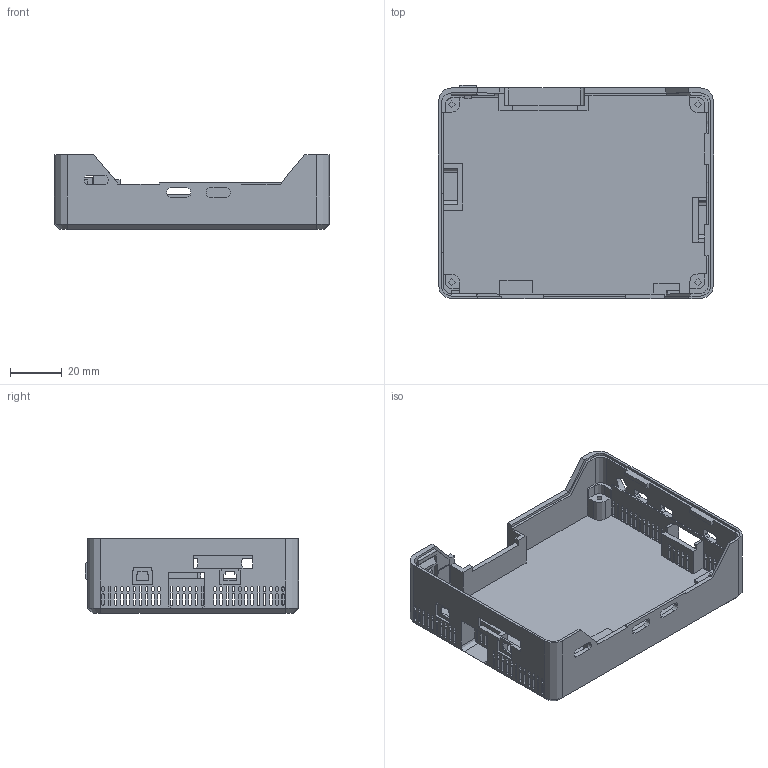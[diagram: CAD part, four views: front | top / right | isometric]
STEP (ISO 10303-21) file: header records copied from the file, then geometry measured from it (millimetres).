
FILE_DESCRIPTION(/* description */ ('','CAx-IF Rec.Pracs.---Representation and Presentation of Product Manufacturing Information (PMI)---4.0---2014-10-13'),/* implementation_level */ '2;1');
FILE_NAME(/* name */ 'Axon0p3_0p2_Case_Bottom Part_121224.step',/* time_stamp */ '2024-12-12T15:16:22+05:30',/* author */ (''),/* organization */ (''),/* preprocessor_version */ 'ST-DEVELOPER v20',/* originating_system */ 'Autodesk Translation Framework v13.20.0.188',/* authorisation */ '');
FILE_SCHEMA (('AP242_MANAGED_MODEL_BASED_3D_ENGINEERING_MIM_LF { 1 0 10303 442 1 1 4 }'));
Length unit declared in the file: millimetre
Products named in the file (1): Axon Enclosure
Bounding box: 106.71 x 82.76 x 29.07 mm (x, y, z)
Topology: 1 solids, 4 shells, 858 faces, 2531 edges, 1666 vertices
Faces by surface type: plane 544, cylinder 310, cone 4
Full cylindrical faces by diameter (mm): 2.594 x4, 5.9 x1
Entity records: 29200 total; most frequent: CARTESIAN_POINT 5291, ORIENTED_EDGE 5064, DIRECTION 4872, EDGE_CURVE 2532, LINE 1874, VECTOR 1874, VERTEX_POINT 1666, AXIS2_PLACEMENT_3D 1499
